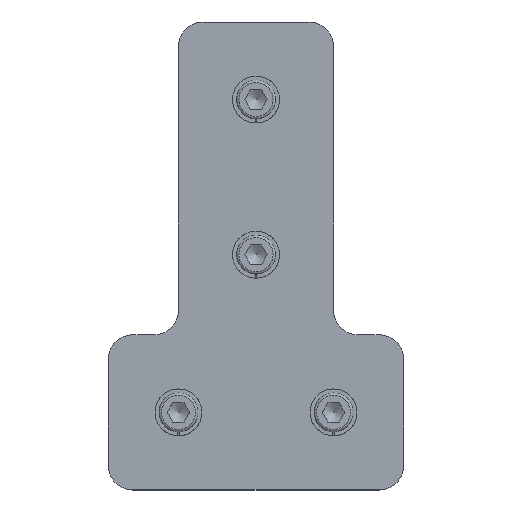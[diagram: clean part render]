
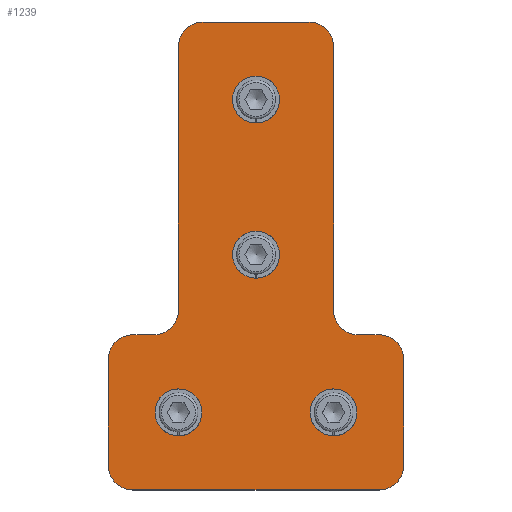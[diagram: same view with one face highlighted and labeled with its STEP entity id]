
A CAD part, top view. The second image highlights one B-rep face of the part: STEP entity #1239.
In plain terms, the highlighted planar face has unit normal (0, 0, 1).
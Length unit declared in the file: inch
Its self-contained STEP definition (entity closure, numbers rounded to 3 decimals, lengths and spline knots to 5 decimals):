
#98=FACE_BOUND('',#228,.T.);
#99=FACE_BOUND('',#229,.T.);
#100=FACE_BOUND('',#230,.T.);
#101=FACE_BOUND('',#231,.T.);
#113=PLANE('',#1429);
#158=FACE_OUTER_BOUND('',#227,.T.);
#227=EDGE_LOOP('',(#932,#933,#934,#935,#936,#937,#938,#939,#940,#941,#942,
#943,#944,#945,#946,#947));
#228=EDGE_LOOP('',(#948));
#229=EDGE_LOOP('',(#949));
#230=EDGE_LOOP('',(#950));
#231=EDGE_LOOP('',(#951));
#285=LINE('',#1965,#381);
#295=LINE('',#2002,#391);
#300=LINE('',#2015,#396);
#303=LINE('',#2024,#399);
#308=LINE('',#2038,#404);
#310=LINE('',#2043,#406);
#311=LINE('',#2045,#407);
#312=LINE('',#2047,#408);
#381=VECTOR('',#1575,0.3937);
#391=VECTOR('',#1607,0.3937);
#396=VECTOR('',#1622,0.3937);
#399=VECTOR('',#1631,0.3937);
#404=VECTOR('',#1646,0.3937);
#406=VECTOR('',#1654,0.3937);
#407=VECTOR('',#1657,0.3937);
#408=VECTOR('',#1660,0.3937);
#470=CIRCLE('',#1386,0.13);
#472=CIRCLE('',#1389,0.13);
#474=CIRCLE('',#1392,0.13);
#476=CIRCLE('',#1395,0.13);
#478=CIRCLE('',#1398,0.25);
#486=CIRCLE('',#1409,0.25);
#487=CIRCLE('',#1412,0.25);
#488=CIRCLE('',#1414,0.25);
#489=CIRCLE('',#1417,0.25);
#490=CIRCLE('',#1420,0.25);
#491=CIRCLE('',#1422,0.25);
#492=CIRCLE('',#1425,0.25);
#534=VERTEX_POINT('',#1930);
#536=VERTEX_POINT('',#1936);
#538=VERTEX_POINT('',#1942);
#540=VERTEX_POINT('',#1948);
#543=VERTEX_POINT('',#1955);
#544=VERTEX_POINT('',#1957);
#546=VERTEX_POINT('',#1963);
#560=VERTEX_POINT('',#1995);
#561=VERTEX_POINT('',#1996);
#562=VERTEX_POINT('',#2001);
#563=VERTEX_POINT('',#2005);
#564=VERTEX_POINT('',#2009);
#565=VERTEX_POINT('',#2010);
#566=VERTEX_POINT('',#2017);
#567=VERTEX_POINT('',#2018);
#568=VERTEX_POINT('',#2023);
#569=VERTEX_POINT('',#2027);
#570=VERTEX_POINT('',#2031);
#571=VERTEX_POINT('',#2032);
#572=VERTEX_POINT('',#2037);
#655=EDGE_CURVE('',#534,#534,#470,.T.);
#658=EDGE_CURVE('',#536,#536,#472,.T.);
#661=EDGE_CURVE('',#538,#538,#474,.T.);
#664=EDGE_CURVE('',#540,#540,#476,.T.);
#667=EDGE_CURVE('',#543,#544,#478,.T.);
#671=EDGE_CURVE('',#546,#543,#285,.T.);
#686=EDGE_CURVE('',#560,#561,#486,.T.);
#689=EDGE_CURVE('',#561,#562,#295,.T.);
#691=EDGE_CURVE('',#562,#563,#487,.T.);
#693=EDGE_CURVE('',#564,#565,#488,.T.);
#696=EDGE_CURVE('',#563,#564,#300,.T.);
#697=EDGE_CURVE('',#566,#567,#489,.T.);
#700=EDGE_CURVE('',#567,#568,#303,.T.);
#702=EDGE_CURVE('',#568,#569,#490,.T.);
#704=EDGE_CURVE('',#570,#571,#491,.T.);
#707=EDGE_CURVE('',#571,#572,#308,.T.);
#709=EDGE_CURVE('',#572,#546,#492,.T.);
#710=EDGE_CURVE('',#544,#560,#310,.T.);
#711=EDGE_CURVE('',#565,#566,#311,.T.);
#712=EDGE_CURVE('',#569,#570,#312,.T.);
#932=ORIENTED_EDGE('',*,*,#667,.F.);
#933=ORIENTED_EDGE('',*,*,#671,.F.);
#934=ORIENTED_EDGE('',*,*,#709,.F.);
#935=ORIENTED_EDGE('',*,*,#707,.F.);
#936=ORIENTED_EDGE('',*,*,#704,.F.);
#937=ORIENTED_EDGE('',*,*,#712,.F.);
#938=ORIENTED_EDGE('',*,*,#702,.F.);
#939=ORIENTED_EDGE('',*,*,#700,.F.);
#940=ORIENTED_EDGE('',*,*,#697,.F.);
#941=ORIENTED_EDGE('',*,*,#711,.F.);
#942=ORIENTED_EDGE('',*,*,#693,.F.);
#943=ORIENTED_EDGE('',*,*,#696,.F.);
#944=ORIENTED_EDGE('',*,*,#691,.F.);
#945=ORIENTED_EDGE('',*,*,#689,.F.);
#946=ORIENTED_EDGE('',*,*,#686,.F.);
#947=ORIENTED_EDGE('',*,*,#710,.F.);
#948=ORIENTED_EDGE('',*,*,#655,.T.);
#949=ORIENTED_EDGE('',*,*,#658,.T.);
#950=ORIENTED_EDGE('',*,*,#661,.T.);
#951=ORIENTED_EDGE('',*,*,#664,.T.);
#1239=ADVANCED_FACE('',(#158,#98,#99,#100,#101),#113,.T.);
#1386=AXIS2_PLACEMENT_3D('',#1932,#1540,#1541);
#1389=AXIS2_PLACEMENT_3D('',#1938,#1547,#1548);
#1392=AXIS2_PLACEMENT_3D('',#1944,#1554,#1555);
#1395=AXIS2_PLACEMENT_3D('',#1950,#1561,#1562);
#1398=AXIS2_PLACEMENT_3D('',#1958,#1568,#1569);
#1409=AXIS2_PLACEMENT_3D('',#1997,#1601,#1602);
#1412=AXIS2_PLACEMENT_3D('',#2006,#1611,#1612);
#1414=AXIS2_PLACEMENT_3D('',#2011,#1616,#1617);
#1417=AXIS2_PLACEMENT_3D('',#2019,#1625,#1626);
#1420=AXIS2_PLACEMENT_3D('',#2028,#1635,#1636);
#1422=AXIS2_PLACEMENT_3D('',#2033,#1640,#1641);
#1425=AXIS2_PLACEMENT_3D('',#2041,#1650,#1651);
#1429=AXIS2_PLACEMENT_3D('',#2048,#1661,#1662);
#1540=DIRECTION('center_axis',(0.,0.,-1.));
#1541=DIRECTION('ref_axis',(-1.,0.,0.));
#1547=DIRECTION('center_axis',(0.,0.,-1.));
#1548=DIRECTION('ref_axis',(-1.,0.,0.));
#1554=DIRECTION('center_axis',(0.,0.,-1.));
#1555=DIRECTION('ref_axis',(-1.,0.,0.));
#1561=DIRECTION('center_axis',(0.,0.,-1.));
#1562=DIRECTION('ref_axis',(-1.,0.,0.));
#1568=DIRECTION('center_axis',(0.,0.,-1.));
#1569=DIRECTION('ref_axis',(-0.707,-0.707,0.));
#1575=DIRECTION('',(-1.,0.,0.));
#1601=DIRECTION('center_axis',(0.,0.,-1.));
#1602=DIRECTION('ref_axis',(-0.707,0.707,0.));
#1607=DIRECTION('',(1.,0.,0.));
#1611=DIRECTION('center_axis',(0.,0.,1.));
#1612=DIRECTION('ref_axis',(0.707,-0.707,0.));
#1616=DIRECTION('center_axis',(0.,0.,-1.));
#1617=DIRECTION('ref_axis',(-0.707,0.707,0.));
#1622=DIRECTION('',(0.,1.,0.));
#1625=DIRECTION('center_axis',(0.,0.,-1.));
#1626=DIRECTION('ref_axis',(0.707,0.707,0.));
#1631=DIRECTION('',(0.,-1.,0.));
#1635=DIRECTION('center_axis',(0.,0.,1.));
#1636=DIRECTION('ref_axis',(-0.707,-0.707,0.));
#1640=DIRECTION('center_axis',(0.,0.,-1.));
#1641=DIRECTION('ref_axis',(0.707,0.707,0.));
#1646=DIRECTION('',(0.,-1.,0.));
#1650=DIRECTION('center_axis',(0.,0.,-1.));
#1651=DIRECTION('ref_axis',(0.707,-0.707,0.));
#1654=DIRECTION('',(0.,1.,0.));
#1657=DIRECTION('',(1.,0.,0.));
#1660=DIRECTION('',(1.,0.,0.));
#1661=DIRECTION('center_axis',(0.,0.,1.));
#1662=DIRECTION('ref_axis',(1.,0.,0.));
#1930=CARTESIAN_POINT('',(0.13,2.3878,0.125));
#1932=CARTESIAN_POINT('Origin',(0.,2.3878,0.125));
#1936=CARTESIAN_POINT('',(0.13,3.9626,0.125));
#1938=CARTESIAN_POINT('Origin',(0.,3.9626,0.125));
#1942=CARTESIAN_POINT('',(-0.6574,0.7874,0.125));
#1944=CARTESIAN_POINT('Origin',(-0.7874,0.7874,0.125));
#1948=CARTESIAN_POINT('',(0.9174,0.7874,0.125));
#1950=CARTESIAN_POINT('Origin',(0.7874,0.7874,0.125));
#1955=CARTESIAN_POINT('',(-1.25,0.,0.125));
#1957=CARTESIAN_POINT('',(-1.5,0.25,0.125));
#1958=CARTESIAN_POINT('Origin',(-1.25,0.25,0.125));
#1963=CARTESIAN_POINT('',(1.25,0.,0.125));
#1965=CARTESIAN_POINT('',(-1.5,0.,0.125));
#1995=CARTESIAN_POINT('',(-1.5,1.3248,0.125));
#1996=CARTESIAN_POINT('',(-1.25,1.5748,0.125));
#1997=CARTESIAN_POINT('Origin',(-1.25,1.3248,0.125));
#2001=CARTESIAN_POINT('',(-1.0374,1.5748,0.125));
#2002=CARTESIAN_POINT('',(-0.7874,1.5748,0.125));
#2005=CARTESIAN_POINT('',(-0.7874,1.8248,0.125));
#2006=CARTESIAN_POINT('Origin',(-1.0374,1.8248,0.125));
#2009=CARTESIAN_POINT('',(-0.7874,4.5,0.125));
#2010=CARTESIAN_POINT('',(-0.5374,4.75,0.125));
#2011=CARTESIAN_POINT('Origin',(-0.5374,4.5,0.125));
#2015=CARTESIAN_POINT('',(-0.7874,4.75,0.125));
#2017=CARTESIAN_POINT('',(0.5374,4.75,0.125));
#2018=CARTESIAN_POINT('',(0.7874,4.5,0.125));
#2019=CARTESIAN_POINT('Origin',(0.5374,4.5,0.125));
#2023=CARTESIAN_POINT('',(0.7874,1.8248,0.125));
#2024=CARTESIAN_POINT('',(0.7874,1.5748,0.125));
#2027=CARTESIAN_POINT('',(1.0374,1.5748,0.125));
#2028=CARTESIAN_POINT('Origin',(1.0374,1.8248,0.125));
#2031=CARTESIAN_POINT('',(1.25,1.5748,0.125));
#2032=CARTESIAN_POINT('',(1.5,1.3248,0.125));
#2033=CARTESIAN_POINT('Origin',(1.25,1.3248,0.125));
#2037=CARTESIAN_POINT('',(1.5,0.25,0.125));
#2038=CARTESIAN_POINT('',(1.5,0.,0.125));
#2041=CARTESIAN_POINT('Origin',(1.25,0.25,0.125));
#2043=CARTESIAN_POINT('',(-1.5,1.5748,0.125));
#2045=CARTESIAN_POINT('',(0.7874,4.75,0.125));
#2047=CARTESIAN_POINT('',(1.5,1.5748,0.125));
#2048=CARTESIAN_POINT('Origin',(0.,2.08305,
0.125));
